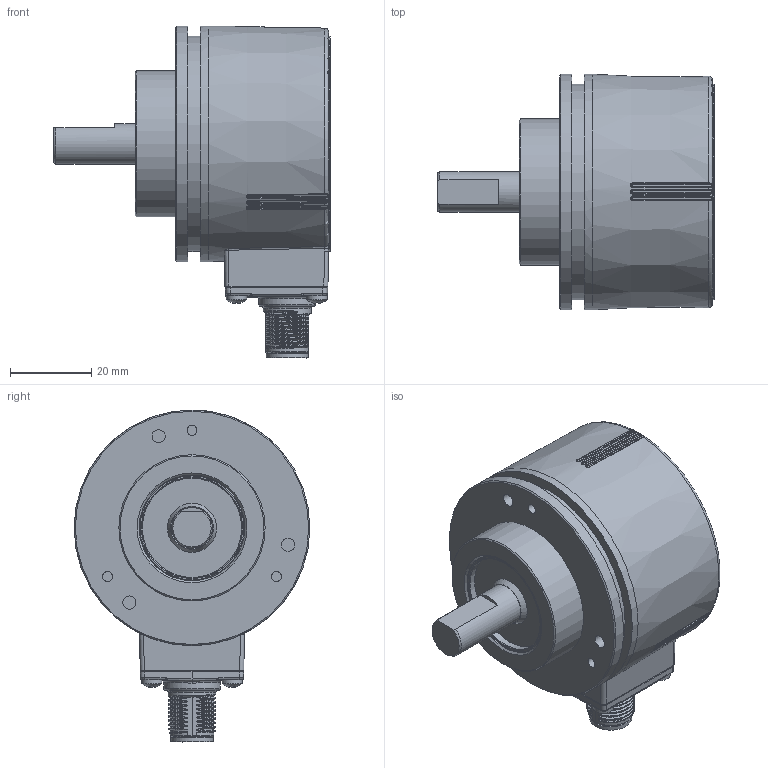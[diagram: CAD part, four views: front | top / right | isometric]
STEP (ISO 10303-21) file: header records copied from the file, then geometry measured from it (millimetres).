
FILE_DESCRIPTION( ( 'Unknown' ), '1' );
FILE_NAME( '//emea.baumernet.org/de05d/RD/caddy/k/GESAMT/EIL580/EIL580/3D/STEP/MarCom/EIL580-SC10.7Bx.xxxxx.A.stp', 'Unknown', ( 'Unknown' ), ( 'Unknown' ), 'PSStep 19.0.9', 'Unknown', ' ' );
FILE_SCHEMA( ( 'AUTOMOTIVE_DESIGN { 1 0 10303 214 1 1 1 1 }' ) );
Length unit declared in the file: millimetre
Products named in the file (2): Assem1; 1_117
Assembly tree (1 placements, depth 2):
  Assem1
    1_117
Bounding box: 68 x 58 x 81.7 mm (x, y, z)
Volume: 114553.6 mm3; surface area: 20781.3 mm2
Topology: 1 solids, 14 shells, 630 faces, 1530 edges, 951 vertices
Faces by surface type: cylinder 187, bspline 185, plane 137, torus 49, cone 47, sphere 23, revolution 2
Full cylindrical faces by diameter (mm): 1 x8, 2.46 x6, 2.5 x4, 3.24 x6, 5 x4, 8.3 x1, 9.55 x2, 9.8 x1, 10 x2, 10.4 x1, 11.262 x1, 11.704 x1, 11.8 x2, 12.8 x1, 13.138 x1, 14 x1, 23.446 x1, 24 x1, 24.927 x1, 25.558 x1, 26 x2, 36 x1, 53 x1, 58 x2
Entity records: 44251 total; most frequent: CARTESIAN_POINT 26935, ORIENTED_EDGE 2688, DIRECTION 1937, EDGE_CURVE 1344, VERTEX_POINT 909, AXIS2_PLACEMENT_3D 829, EDGE_LOOP 809, FACE_OUTER_BOUND 713
